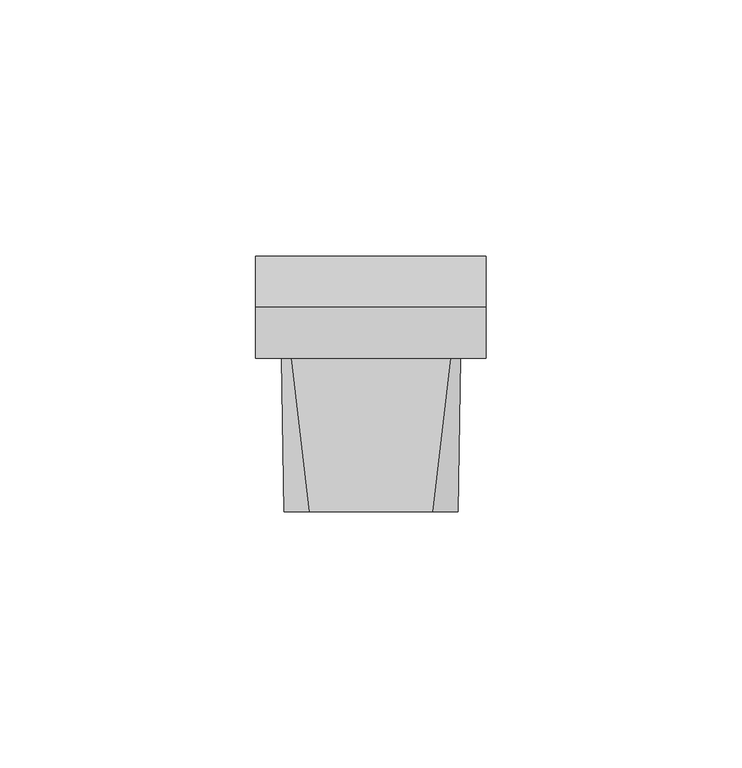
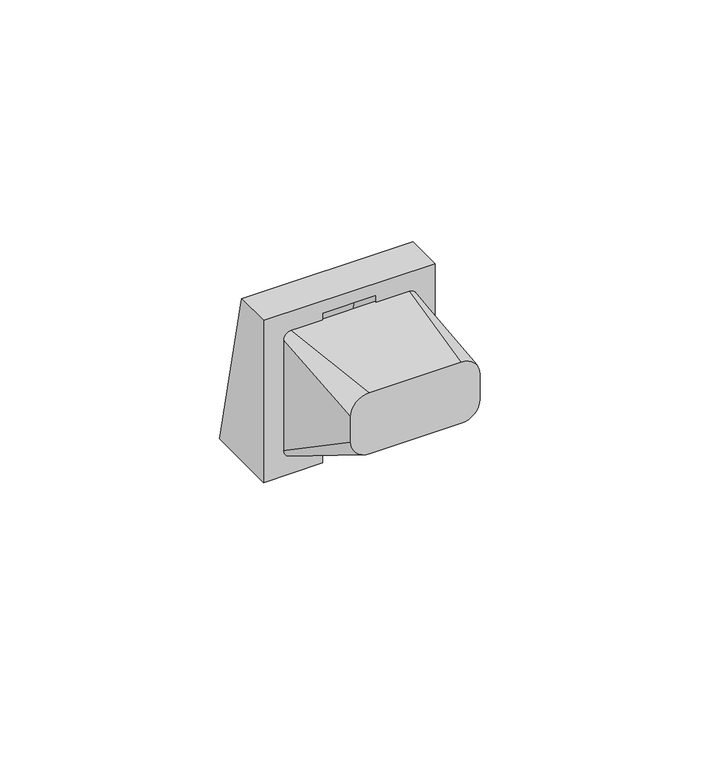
"""IFC4 building model written with IfcOpenShell, lengths in millimetres: proxy geometry, IEK_Skandy_Механизм подсветки, вывод кабеля : ВК_SK-O01B."""

from ifc_helpers import new_model, si_unit, frame, origin, place, context, project, spatial, circle_curve, faceted_brep, source, transform, mapped, element, save
from ifc_brep_helpers import plane_surface, spline_surface, advanced_brep


def electrical_fixtures_4662bf55(model_context):
    return source(origin(), model_context, "Body", "SolidModel", [
        faceted_brep([(22.5, 10.0, 22.5), (22.5, 0.0, 22.5), (22.5, 0.0, -22.5), (22.5, 20.0, -22.5), (-22.5, 10.0, 22.5), (-22.5, 20.0, -22.5), (-22.5, 0.0, -22.5), (-22.5, 0.0, 22.5), (-7.0, 0.0, -22.5), (-7.0, 0.0, 19.1184599), (7.0, 0.0, 19.1184599), (7.0, 0.0, -22.5), (7.0, 17.8032022, -22.5), (-7.0, 17.8032022, -22.5), (7.0, 7.9639703, 19.1184599), (-7.0, 7.9639703, 19.1184599)], [[[0, 1, 2, 3]], [[4, 5, 6, 7]], [[1, 0, 4, 7]], [[2, 1, 7, 6, 8, 9, 10, 11]], [[3, 2, 11, 12, 13, 8, 6, 5]], [[0, 3, 5, 4]], [[10, 14, 12, 11]], [[13, 15, 9, 8]], [[12, 14, 15, 13]], [[14, 10, 9, 15]]]),
        advanced_brep(
        [(-12.0, -30.0, 17.0), (-17.0, -30.0, 12.0), (-17.0, -30.0, 5.0), (-12.0, -30.0, 0.0), (12.0, -30.0, 0.0), (17.0, -30.0, 5.0), (17.0, -30.0, 12.0), (12.0, -30.0, 17.0), (-15.5, 0.0, 17.5), (15.5, 0.0, 17.5), (17.5, 0.0, 15.5), (17.5, 0.0, -15.5), (15.5, 0.0, -17.5), (-15.5, 0.0, -17.5), (-17.5, 0.0, -15.5), (-17.5, 0.0, 15.5)],
        [
            (0, 1, circle_curve(frame((-12.0, -30.0, 12.0), z_axis=(0.0, -1.0, 0.0), x_axis=(1.0, 0.0, 0.0)), 5.0)),
            (1, 2),
            (2, 3, circle_curve(frame((-12.0, -30.0, 5.0), z_axis=(0.0, -1.0, 0.0), x_axis=(1.0, 0.0, 0.0)), 5.0)),
            (3, 4),
            (4, 5, circle_curve(frame((12.0, -30.0, 5.0), z_axis=(0.0, -1.0, 0.0), x_axis=(1.0, 0.0, 0.0)), 5.0)),
            (5, 6),
            (6, 7, circle_curve(frame((12.0, -30.0, 12.0), z_axis=(0.0, -1.0, 0.0), x_axis=(1.0, 0.0, 0.0)), 5.0)),
            (7, 0),
            (8, 9),
            (9, 10, circle_curve(frame((15.5, 0.0, 15.5), z_axis=(0.0, 1.0, 0.0), x_axis=(1.0, 0.0, 0.0)), 2.0)),
            (10, 11),
            (11, 12, circle_curve(frame((15.5, 0.0, -15.5), z_axis=(0.0, 1.0, 0.0), x_axis=(1.0, 0.0, 0.0)), 2.0)),
            (12, 13),
            (13, 14, circle_curve(frame((-15.5, 0.0, -15.5), z_axis=(0.0, 1.0, 0.0), x_axis=(1.0, 0.0, 0.0)), 2.0)),
            (14, 15),
            (15, 8, circle_curve(frame((-15.5, 0.0, 15.5), z_axis=(0.0, 1.0, 0.0), x_axis=(1.0, 0.0, 0.0)), 2.0)),
            (8, 0),
            (7, 9),
            (6, 10),
            (5, 11),
            (4, 12),
            (3, 13),
            (2, 14),
            (1, 15),
        ],
        [
            plane_surface(frame((0.0, -30.0, 8.5), z_axis=(0.0, -1.0, 0.0), x_axis=(-1.0, 0.0, 0.0))),
            plane_surface(frame((0.0, 0.0, 0.0), z_axis=(0.0, 1.0, 0.0), x_axis=(-1.0, 0.0, 0.0))),
            plane_surface(frame((0.0, 0.0, 17.5), z_axis=(0.0, -0.016664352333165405, 0.9998611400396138), x_axis=(-1.0, 0.0, 0.0))),
            spline_surface(2, 1, [[(17.5, 0.0, 15.5), (17.0, -30.0, 12.0)], [(17.5, 0.0, 17.5), (17.0, -30.0, 17.0)], [(15.5, 0.0, 17.5), (12.0, -30.0, 17.0)]], [3, 3], [2, 2], [0.0, 1.0], [0.0, 1.0], weights=[[1.0, 1.0], [0.7071067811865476, 0.7071067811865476], [1.0, 1.0]]),
            plane_surface(frame((17.5, 0.0, 0.0), z_axis=(0.9998611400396, -0.01666435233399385, 0.0), x_axis=(0.0, 0.0, 1.0))),
            spline_surface(2, 1, [[(15.5, 0.0, -17.5), (12.0, -30.0, 0.0)], [(17.5, 0.0, -17.5), (17.0, -30.0, 0.0)], [(17.5, 0.0, -15.5), (17.0, -30.0, 5.0)]], [3, 3], [2, 2], [0.0, 1.0], [0.0, 1.0], weights=[[1.0, 1.0], [0.7071067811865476, 0.7071067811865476], [1.0, 1.0]]),
            plane_surface(frame((0.0, 0.0, -17.5), z_axis=(0.0, -0.503871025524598, -0.863778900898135), x_axis=(1.0, 0.0, 0.0))),
            spline_surface(2, 1, [[(-17.5, 0.0, -15.5), (-17.0, -30.0, 5.0)], [(-17.5, 0.0, -17.5), (-17.0, -30.0, 0.0)], [(-15.5, 0.0, -17.5), (-12.0, -30.0, 0.0)]], [3, 3], [2, 2], [0.0, 1.0], [0.0, 1.0], weights=[[1.0, 1.0], [0.7071067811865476, 0.7071067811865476], [1.0, 1.0]]),
            plane_surface(frame((-17.5, 0.0, 0.0), z_axis=(-0.9998611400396, -0.016664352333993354, 0.0), x_axis=(0.0, 0.0, -1.0))),
            spline_surface(2, 1, [[(-15.5, 0.0, 17.5), (-12.0, -30.0, 17.0)], [(-17.5, 0.0, 17.5), (-17.0, -30.0, 17.0)], [(-17.5, 0.0, 15.5), (-17.0, -30.0, 12.0)]], [3, 3], [2, 2], [0.0, 1.0], [0.0, 1.0], weights=[[1.0, 1.0], [0.7071067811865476, 0.7071067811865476], [1.0, 1.0]]),
        ],
        [
            (0, [[1, 2, 3, 4, 5, 6, 7, 8]]),
            (1, [[9, 10, 11, 12, 13, 14, 15, 16]]),
            (2, [[-9, 17, -8, 18]]),
            (3, [[-10, -18, -7, 19]]),
            (4, [[-11, -19, -6, 20]]),
            (5, [[-12, -20, -5, 21]]),
            (6, [[-13, -21, -4, 22]]),
            (7, [[-14, -22, -3, 23]]),
            (8, [[-15, -23, -2, 24]]),
            (9, [[-16, -24, -1, -17]]),
        ],
    ),
    ])


if __name__ == "__main__":
    model = new_model("IFC4")
    model_context = context("Model", 3, world=origin())
    ifc_project = project(units=[si_unit("LENGTHUNIT", "METRE", prefix="MILLI")], contexts=[model_context])
    site = spatial("IfcSite", under=ifc_project)
    building = spatial("IfcBuilding", under=site)
    placement = place(None, origin())
    electrical_fixtures_shape = electrical_fixtures_4662bf55(model_context)
    element("IfcBuildingElementProxy", 1, Name="IEK_Skandy_Механизм подсветки, вывод кабеля : ВК_SK-O01B", ObjectType="IEK_Skandy_Механизм подсветки, вывод кабеля : ВК_SK-O01B", at=placement, inside=building, context=model_context, shape_type="MappedRepresentation", body=[
        mapped(electrical_fixtures_shape, transform((0.0, 0.0, 0.0), x_axis=(1.0, 0.0, 0.0), y_axis=(0.0, 1.0, 0.0), z_axis=(0.0, 0.0, 1.0))),
    ])
    save(model, "model.ifc")
